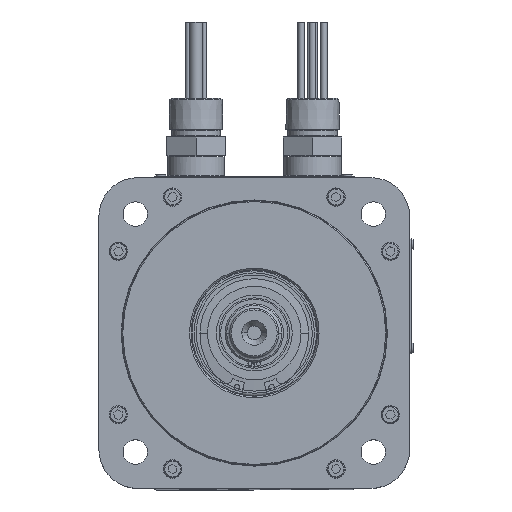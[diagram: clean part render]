
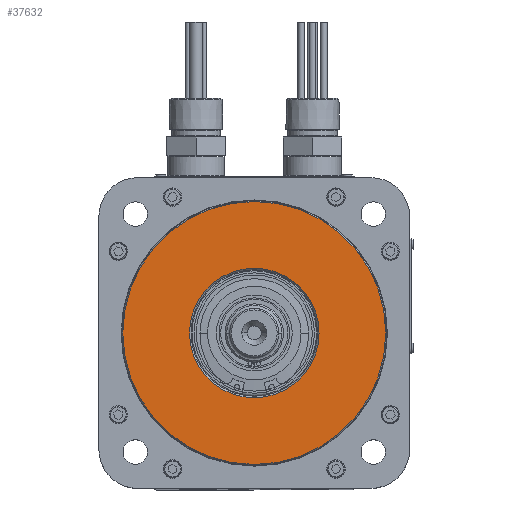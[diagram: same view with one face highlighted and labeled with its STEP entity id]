
A CAD part, top view. The second image highlights one B-rep face of the part: STEP entity #37632.
In plain terms, the highlighted planar face has unit normal (0, 0, 1).
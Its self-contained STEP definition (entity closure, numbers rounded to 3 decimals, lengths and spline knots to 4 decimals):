
#7895 = CARTESIAN_POINT ( 'NONE',  ( 1.2505, 0., 13.127 ) ) ;
#7896 = DIRECTION ( 'NONE',  ( 1., 0., 0. ) ) ;
#7897 = DIRECTION ( 'NONE',  ( 0., 0., -1. ) ) ;
#7898 = CARTESIAN_POINT ( 'NONE',  ( 0., 0., 13.127 ) ) ;
#7899 = AXIS2_PLACEMENT_3D ( 'NONE', #7898, #7897, #7896 ) ;
#7900 = CIRCLE ( 'NONE', #7899, 1.2505 ) ;
#7901 = CARTESIAN_POINT ( 'NONE',  ( -1.2505, 0., 13.127 ) ) ;
#8002 = CARTESIAN_POINT ( 'NONE',  ( 2.5391, 0., 13.127 ) ) ;
#8003 = DIRECTION ( 'NONE',  ( 1., 0., 0. ) ) ;
#8004 = DIRECTION ( 'NONE',  ( 0., 0., 1. ) ) ;
#8005 = CARTESIAN_POINT ( 'NONE',  ( 0., 0., 13.127 ) ) ;
#8006 = AXIS2_PLACEMENT_3D ( 'NONE', #8005, #8004, #8003 ) ;
#8007 = CIRCLE ( 'NONE', #8006, 2.5391 ) ;
#8153 = CARTESIAN_POINT ( 'NONE',  ( -2.5391, 0., 13.127 ) ) ;
#9088 = DIRECTION ( 'NONE',  ( 1., 0., 0. ) ) ;
#9089 = DIRECTION ( 'NONE',  ( 0., 0., 1. ) ) ;
#9090 = CARTESIAN_POINT ( 'NONE',  ( 0., 1.2206, 13.127 ) ) ;
#9091 = AXIS2_PLACEMENT_3D ( 'NONE', #9090, #9089, #9088 ) ;
#9092 = CIRCLE ( 'NONE', #9309, 1.2505 ) ;
#9293 = PLANE ( 'NONE',  #9091 ) ;
#9294 = FACE_BOUND ( 'NONE', #37634, .T. ) ;
#9295 = FACE_OUTER_BOUND ( 'NONE', #37633, .T. ) ;
#9306 = DIRECTION ( 'NONE',  ( 1., 0., 0. ) ) ;
#9307 = DIRECTION ( 'NONE',  ( 0., 0., -1. ) ) ;
#9308 = CARTESIAN_POINT ( 'NONE',  ( 0., 0., 13.127 ) ) ;
#9309 = AXIS2_PLACEMENT_3D ( 'NONE', #9308, #9307, #9306 ) ;
#9338 = DIRECTION ( 'NONE',  ( 1., 0., 0. ) ) ;
#9339 = DIRECTION ( 'NONE',  ( 0., 0., 1. ) ) ;
#9504 = CIRCLE ( 'NONE', #9523, 2.5391 ) ;
#9522 = CARTESIAN_POINT ( 'NONE',  ( 0., 0., 13.127 ) ) ;
#9523 = AXIS2_PLACEMENT_3D ( 'NONE', #9522, #9339, #9338 ) ;
#36926 = VERTEX_POINT ( 'NONE', #7901 ) ;
#36928 = EDGE_CURVE ( 'NONE', #36929, #36926, #7900, .T. ) ;
#36929 = VERTEX_POINT ( 'NONE', #7895 ) ;
#37097 = EDGE_CURVE ( 'NONE', #37098, #37111, #8007, .T. ) ;
#37098 = VERTEX_POINT ( 'NONE', #8002 ) ;
#37111 = VERTEX_POINT ( 'NONE', #8153 ) ;
#37632 = ADVANCED_FACE ( 'NONE', ( #9295, #9294 ), #9293, .T. ) ;
#37633 = EDGE_LOOP ( 'NONE', ( #37795, #37797 ) ) ;
#37634 = EDGE_LOOP ( 'NONE', ( #37635, #37636 ) ) ;
#37635 = ORIENTED_EDGE ( 'NONE', *, *, #36928, .T. ) ;
#37636 = ORIENTED_EDGE ( 'NONE', *, *, #37642, .T. ) ;
#37642 = EDGE_CURVE ( 'NONE', #36926, #36929, #9092, .T. ) ;
#37795 = ORIENTED_EDGE ( 'NONE', *, *, #37796, .T. ) ;
#37796 = EDGE_CURVE ( 'NONE', #37111, #37098, #9504, .T. ) ;
#37797 = ORIENTED_EDGE ( 'NONE', *, *, #37097, .T. ) ;
